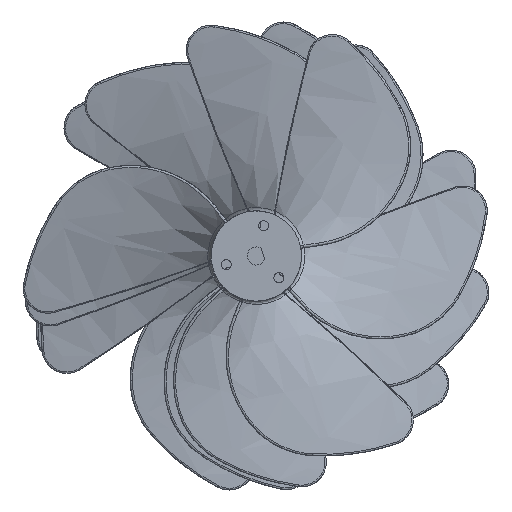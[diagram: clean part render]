
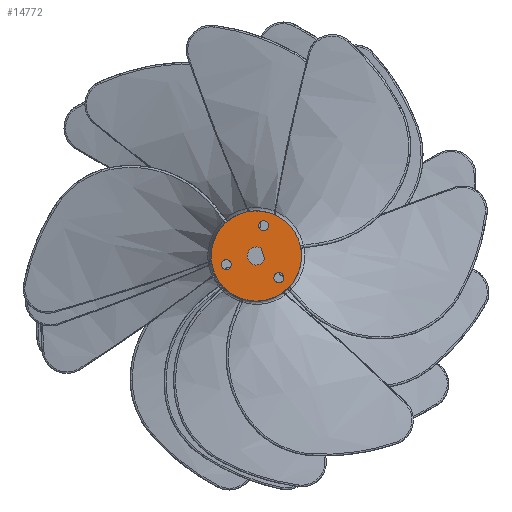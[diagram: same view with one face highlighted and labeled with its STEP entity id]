
A CAD part, front view. The second image highlights one B-rep face of the part: STEP entity #14772.
In plain terms, the highlighted planar face has unit normal (0, -1, 0).
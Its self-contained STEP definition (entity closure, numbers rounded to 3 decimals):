
#88=FACE_BOUND('',#1517,.T.);
#89=FACE_BOUND('',#1518,.T.);
#90=FACE_BOUND('',#1519,.T.);
#91=FACE_BOUND('',#1520,.T.);
#493=PLANE('',#15349);
#978=FACE_OUTER_BOUND('',#1516,.T.);
#1516=EDGE_LOOP('',(#13705,#13706,#13707,#13708,#13709,#13710,#13711,#13712,
#13713,#13714));
#1517=EDGE_LOOP('',(#13715));
#1518=EDGE_LOOP('',(#13716));
#1519=EDGE_LOOP('',(#13717));
#1520=EDGE_LOOP('',(#13718,#13719));
#3413=B_SPLINE_CURVE_WITH_KNOTS('',3,(#69136,#69137,#69138,#69139),
 .UNSPECIFIED.,.F.,.F.,(4,4),(0.,0.003),.UNSPECIFIED.);
#3445=B_SPLINE_CURVE_WITH_KNOTS('',3,(#69838,#69839,#69840,#69841),
 .UNSPECIFIED.,.F.,.F.,(4,4),(0.,0.003),.UNSPECIFIED.);
#3523=B_SPLINE_CURVE_WITH_KNOTS('',3,(#71366,#71367,#71368,#71369),
 .UNSPECIFIED.,.F.,.F.,(4,4),(0.,0.003),.UNSPECIFIED.);
#3555=B_SPLINE_CURVE_WITH_KNOTS('',3,(#72055,#72056,#72057,#72058),
 .UNSPECIFIED.,.F.,.F.,(4,4),(0.,0.003),.UNSPECIFIED.);
#3578=B_SPLINE_CURVE_WITH_KNOTS('',3,(#72486,#72487,#72488,#72489),
 .UNSPECIFIED.,.F.,.F.,(4,4),(0.,0.003),.UNSPECIFIED.);
#3620=B_SPLINE_CURVE_WITH_KNOTS('',3,(#73222,#73223,#73224,#73225),
 .UNSPECIFIED.,.F.,.F.,(4,4),(0.,0.003),.UNSPECIFIED.);
#3929=CIRCLE('',#15290,13.);
#3931=CIRCLE('',#15293,1.45);
#3933=CIRCLE('',#15296,1.45);
#3935=CIRCLE('',#15299,1.45);
#3936=CIRCLE('',#15302,2.6);
#3968=CIRCLE('',#15350,13.);
#3969=CIRCLE('',#15351,13.);
#3970=CIRCLE('',#15352,13.);
#4124=LINE('',#67649,#4291);
#4291=VECTOR('',#16246,10.);
#6043=VERTEX_POINT('',#67607);
#6045=VERTEX_POINT('',#67610);
#6047=VERTEX_POINT('',#67631);
#6049=VERTEX_POINT('',#67637);
#6051=VERTEX_POINT('',#67643);
#6052=VERTEX_POINT('',#67647);
#6053=VERTEX_POINT('',#67648);
#6126=VERTEX_POINT('',#69134);
#6127=VERTEX_POINT('',#69135);
#6155=VERTEX_POINT('',#69819);
#6232=VERTEX_POINT('',#71364);
#6233=VERTEX_POINT('',#71365);
#6283=VERTEX_POINT('',#72484);
#6284=VERTEX_POINT('',#72485);
#6324=VERTEX_POINT('',#73221);
#8541=EDGE_CURVE('',#6043,#6045,#3929,.T.);
#8545=EDGE_CURVE('',#6047,#6047,#3931,.T.);
#8548=EDGE_CURVE('',#6049,#6049,#3933,.T.);
#8551=EDGE_CURVE('',#6051,#6051,#3935,.T.);
#8552=EDGE_CURVE('',#6052,#6053,#4124,.T.);
#8556=EDGE_CURVE('',#6052,#6053,#3936,.T.);
#8643=EDGE_CURVE('',#6126,#6127,#3413,.T.);
#8679=EDGE_CURVE('',#6155,#6126,#3445,.T.);
#8772=EDGE_CURVE('',#6232,#6233,#3523,.T.);
#8808=EDGE_CURVE('',#6045,#6232,#3555,.T.);
#8833=EDGE_CURVE('',#6283,#6284,#3578,.T.);
#8883=EDGE_CURVE('',#6284,#6155,#3968,.T.);
#8884=EDGE_CURVE('',#6324,#6283,#3620,.T.);
#8885=EDGE_CURVE('',#6233,#6324,#3969,.T.);
#8886=EDGE_CURVE('',#6127,#6043,#3970,.T.);
#13705=ORIENTED_EDGE('',*,*,#8643,.F.);
#13706=ORIENTED_EDGE('',*,*,#8679,.F.);
#13707=ORIENTED_EDGE('',*,*,#8883,.F.);
#13708=ORIENTED_EDGE('',*,*,#8833,.F.);
#13709=ORIENTED_EDGE('',*,*,#8884,.F.);
#13710=ORIENTED_EDGE('',*,*,#8885,.F.);
#13711=ORIENTED_EDGE('',*,*,#8772,.F.);
#13712=ORIENTED_EDGE('',*,*,#8808,.F.);
#13713=ORIENTED_EDGE('',*,*,#8541,.F.);
#13714=ORIENTED_EDGE('',*,*,#8886,.F.);
#13715=ORIENTED_EDGE('',*,*,#8545,.T.);
#13716=ORIENTED_EDGE('',*,*,#8548,.T.);
#13717=ORIENTED_EDGE('',*,*,#8551,.T.);
#13718=ORIENTED_EDGE('',*,*,#8556,.T.);
#13719=ORIENTED_EDGE('',*,*,#8552,.F.);
#14772=ADVANCED_FACE('',(#978,#88,#89,#90,#91),#493,.T.);
#15290=AXIS2_PLACEMENT_3D('',#67611,#16221,#16222);
#15293=AXIS2_PLACEMENT_3D('',#67633,#16228,#16229);
#15296=AXIS2_PLACEMENT_3D('',#67639,#16235,#16236);
#15299=AXIS2_PLACEMENT_3D('',#67645,#16242,#16243);
#15302=AXIS2_PLACEMENT_3D('',#67656,#16252,#16253);
#15349=AXIS2_PLACEMENT_3D('',#73219,#16364,#16365);
#15350=AXIS2_PLACEMENT_3D('',#73220,#16366,#16367);
#15351=AXIS2_PLACEMENT_3D('',#73226,#16368,#16369);
#15352=AXIS2_PLACEMENT_3D('',#73227,#16370,#16371);
#16221=DIRECTION('center_axis',(0.,1.,0.));
#16222=DIRECTION('ref_axis',(1.,0.,0.));
#16228=DIRECTION('center_axis',(0.,1.,0.));
#16229=DIRECTION('ref_axis',(1.,0.,0.));
#16235=DIRECTION('center_axis',(0.,1.,0.));
#16236=DIRECTION('ref_axis',(1.,0.,0.));
#16242=DIRECTION('center_axis',(0.,1.,0.));
#16243=DIRECTION('ref_axis',(1.,0.,0.));
#16246=DIRECTION('',(1.,0.,0.));
#16252=DIRECTION('center_axis',(0.,1.,0.));
#16253=DIRECTION('ref_axis',(1.,0.,0.));
#16364=DIRECTION('center_axis',(0.,-1.,0.));
#16365=DIRECTION('ref_axis',(0.,0.,-1.));
#16366=DIRECTION('center_axis',(0.,1.,0.));
#16367=DIRECTION('ref_axis',(1.,0.,0.));
#16368=DIRECTION('center_axis',(0.,1.,0.));
#16369=DIRECTION('ref_axis',(1.,0.,0.));
#16370=DIRECTION('center_axis',(0.,1.,0.));
#16371=DIRECTION('ref_axis',(1.,0.,0.));
#67607=CARTESIAN_POINT('',(-13.,-1.,0.));
#67610=CARTESIAN_POINT('',(-10.796,-1.,7.243));
#67611=CARTESIAN_POINT('Origin',(0.,-1.,0.));
#67631=CARTESIAN_POINT('',(-9.244,-1.,-4.5));
#67633=CARTESIAN_POINT('Origin',(-7.794,-1.,-4.5));
#67637=CARTESIAN_POINT('',(6.344,-1.,-4.5));
#67639=CARTESIAN_POINT('Origin',(7.794,-1.,-4.5));
#67643=CARTESIAN_POINT('',(-1.45,-1.,9.));
#67645=CARTESIAN_POINT('Origin',(0.,-1.,9.));
#67647=CARTESIAN_POINT('',(-1.661,-1.,-2.));
#67648=CARTESIAN_POINT('',(1.661,-1.,-2.));
#67649=CARTESIAN_POINT('',(0.831,-1.,-2.));
#67656=CARTESIAN_POINT('Origin',(0.,-1.,0.));
#69134=CARTESIAN_POINT('',(-0.909,-1.,-12.968));
#69135=CARTESIAN_POINT('',(-0.938,-1.,-12.966));
#69136=CARTESIAN_POINT('Ctrl Pts',(-0.909,-1.,-12.968));
#69137=CARTESIAN_POINT('Ctrl Pts',(-0.919,-1.,-12.968));
#69138=CARTESIAN_POINT('Ctrl Pts',(-0.929,-1.,
-12.967));
#69139=CARTESIAN_POINT('Ctrl Pts',(-0.938,-1.,
-12.966));
#69819=CARTESIAN_POINT('',(-0.875,-1.,-12.971));
#69838=CARTESIAN_POINT('Ctrl Pts',(-0.875,-1.,
-12.971));
#69839=CARTESIAN_POINT('Ctrl Pts',(-0.886,-1.,
-12.97));
#69840=CARTESIAN_POINT('Ctrl Pts',(-0.898,-1.,
-12.969));
#69841=CARTESIAN_POINT('Ctrl Pts',(-0.909,-1.,
-12.968));
#71364=CARTESIAN_POINT('',(-10.776,-1.,7.272));
#71365=CARTESIAN_POINT('',(-10.76,-1.,7.296));
#71366=CARTESIAN_POINT('Ctrl Pts',(-10.776,-1.,7.272));
#71367=CARTESIAN_POINT('Ctrl Pts',(-10.771,-1.,7.28));
#71368=CARTESIAN_POINT('Ctrl Pts',(-10.766,-1.,
7.288));
#71369=CARTESIAN_POINT('Ctrl Pts',(-10.76,-1.,
7.296));
#72055=CARTESIAN_POINT('Ctrl Pts',(-10.796,-1.,
7.243));
#72056=CARTESIAN_POINT('Ctrl Pts',(-10.789,-1.,
7.252));
#72057=CARTESIAN_POINT('Ctrl Pts',(-10.783,-1.,
7.262));
#72058=CARTESIAN_POINT('Ctrl Pts',(-10.776,-1.,
7.272));
#72484=CARTESIAN_POINT('',(11.686,-1.,5.697));
#72485=CARTESIAN_POINT('',(11.698,-1.,5.67));
#72486=CARTESIAN_POINT('Ctrl Pts',(11.686,-1.,5.697));
#72487=CARTESIAN_POINT('Ctrl Pts',(11.69,-1.,5.688));
#72488=CARTESIAN_POINT('Ctrl Pts',(11.694,-1.,
5.679));
#72489=CARTESIAN_POINT('Ctrl Pts',(11.698,-1.,
5.67));
#73219=CARTESIAN_POINT('Origin',(0.,-1.,0.));
#73220=CARTESIAN_POINT('Origin',(0.,-1.,0.));
#73221=CARTESIAN_POINT('',(11.67,-1.,5.728));
#73222=CARTESIAN_POINT('Ctrl Pts',(11.67,-1.,
5.728));
#73223=CARTESIAN_POINT('Ctrl Pts',(11.675,-1.,
5.717));
#73224=CARTESIAN_POINT('Ctrl Pts',(11.68,-1.,
5.707));
#73225=CARTESIAN_POINT('Ctrl Pts',(11.686,-1.,5.697));
#73226=CARTESIAN_POINT('Origin',(0.,-1.,0.));
#73227=CARTESIAN_POINT('Origin',(0.,-1.,0.));
